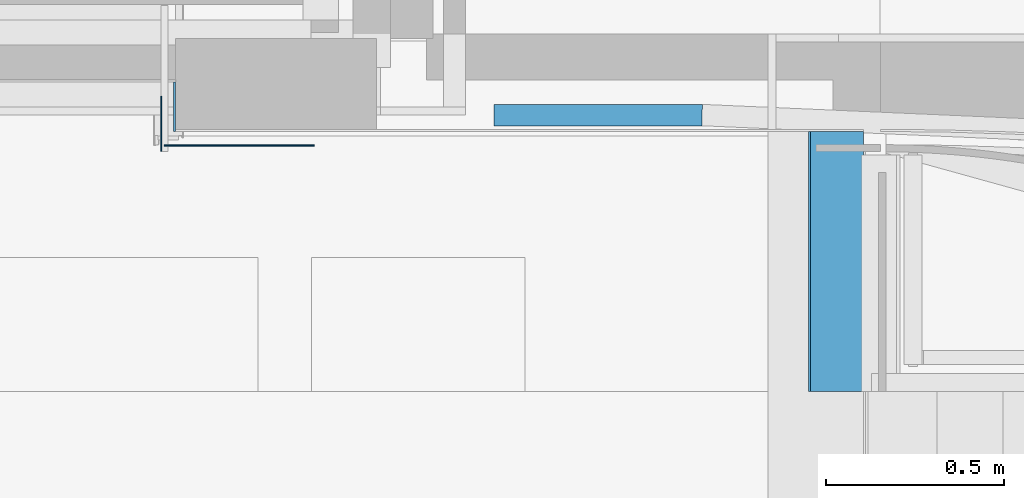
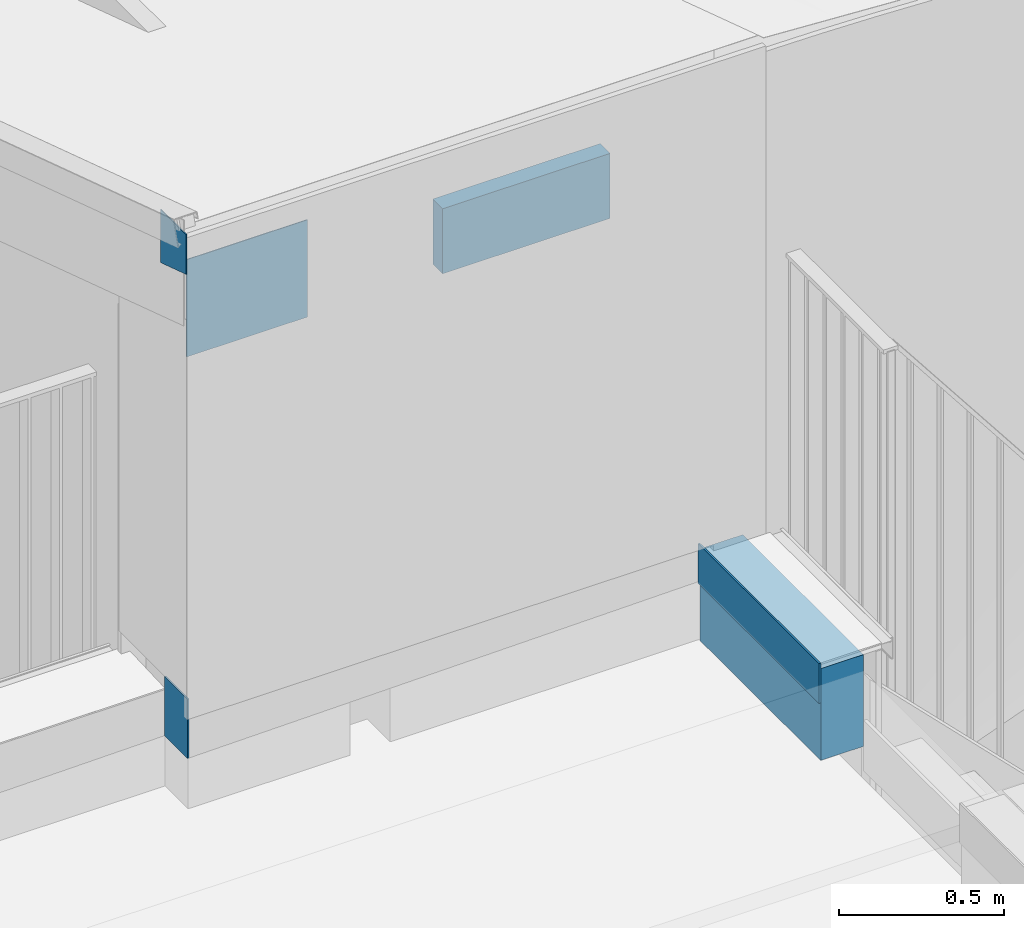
# One storey, part 41 of 66: 6 walls.
"""IFC2X3 building model written with IfcOpenShell, lengths in millimetres."""

from ifc_helpers import new_model, entity, si_unit, converted_unit, derived_unit, direction, frame, frame_2d, origin, place, context, subcontext, project, spatial, polyline, rectangle, outline, extrude, clip, halfspace, material, layer, layer_set, layer_usage, type_object, element, save


model = new_model("IFC2X3")

# Units and contexts
model_context = context("Model", 3, precision=0.01, world=origin(), true_north=direction((6.12303176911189e-17, 1.0)))
body_context = subcontext(model_context, "Body", "Model", "MODEL_VIEW")
ifc_project = project(units=[si_unit("LENGTHUNIT", "METRE", prefix="MILLI"), si_unit("AREAUNIT", "SQUARE_METRE"), si_unit("VOLUMEUNIT", "CUBIC_METRE"), converted_unit("PLANEANGLEUNIT", "DEGREE", entity("IfcRatioMeasure", 0.0174532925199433), si_unit("PLANEANGLEUNIT", "RADIAN"), dimensions=[0, 0, 0, 0, 0, 0, 0]), si_unit("MASSUNIT", "GRAM", prefix="KILO"), derived_unit("MASSDENSITYUNIT", [(si_unit("MASSUNIT", "GRAM", prefix="KILO"), 1), (si_unit("LENGTHUNIT", "METRE"), -3)]), derived_unit("MOMENTOFINERTIAUNIT", [(si_unit("LENGTHUNIT", "METRE"), 4)]), si_unit("TIMEUNIT", "SECOND"), si_unit("FREQUENCYUNIT", "HERTZ"), si_unit("THERMODYNAMICTEMPERATUREUNIT", "DEGREE_CELSIUS"), derived_unit("THERMALTRANSMITTANCEUNIT", [(si_unit("MASSUNIT", "GRAM", prefix="KILO"), 1), (si_unit("THERMODYNAMICTEMPERATUREUNIT", "KELVIN"), -1), (si_unit("TIMEUNIT", "SECOND"), -3)]), derived_unit("VOLUMETRICFLOWRATEUNIT", [(si_unit("LENGTHUNIT", "METRE"), 3), (si_unit("TIMEUNIT", "SECOND"), -1)]), si_unit("ELECTRICCURRENTUNIT", "AMPERE"), si_unit("ELECTRICVOLTAGEUNIT", "VOLT"), si_unit("POWERUNIT", "WATT"), si_unit("FORCEUNIT", "NEWTON", prefix="KILO"), si_unit("ILLUMINANCEUNIT", "LUX"), si_unit("LUMINOUSFLUXUNIT", "LUMEN"), si_unit("LUMINOUSINTENSITYUNIT", "CANDELA"), derived_unit("USERDEFINED", [(si_unit("MASSUNIT", "GRAM", prefix="KILO"), -1), (si_unit("LENGTHUNIT", "METRE"), -2), (si_unit("TIMEUNIT", "SECOND"), 3), (si_unit("LUMINOUSFLUXUNIT", "LUMEN"), 1)]), derived_unit("LINEARVELOCITYUNIT", [(si_unit("LENGTHUNIT", "METRE"), 1), (si_unit("TIMEUNIT", "SECOND"), -1)]), si_unit("PRESSUREUNIT", "PASCAL"), derived_unit("USERDEFINED", [(si_unit("LENGTHUNIT", "METRE"), -2), (si_unit("MASSUNIT", "GRAM", prefix="KILO"), 1), (si_unit("TIMEUNIT", "SECOND"), -2)]), derived_unit("LINEARFORCEUNIT", [(si_unit("MASSUNIT", "GRAM", prefix="KILO"), 1), (si_unit("LENGTHUNIT", "METRE"), 1), (si_unit("TIMEUNIT", "SECOND"), -2), (si_unit("LENGTHUNIT", "METRE"), -1)]), derived_unit("PLANARFORCEUNIT", [(si_unit("MASSUNIT", "GRAM", prefix="KILO"), 1), (si_unit("LENGTHUNIT", "METRE"), 1), (si_unit("TIMEUNIT", "SECOND"), -2), (si_unit("LENGTHUNIT", "METRE"), -2)])], contexts=[model_context])

# Site, building, storey
site_placement = place(None, origin())
site = spatial("IfcSite", under=ifc_project, at=site_placement, Name="Default", CompositionType="ELEMENT")
building_placement = place(site_placement, origin())
building = spatial("IfcBuilding", under=site, at=building_placement, Name="-", CompositionType="ELEMENT")
storey_placement = place(building_placement, frame((0.0, 0.0, 3070.0)))
storey = spatial("IfcBuildingStorey", under=building, at=storey_placement, Name="01 eerste verdieping", CompositionType="ELEMENT", Elevation=3070.00000000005)

# Walls
ifc_material_1 = material(Name="h7_zink zwart")
ifc_layer_1 = layer(ifc_material_1, 3.0)
ifc_layer_set_1 = layer_set([ifc_layer_1], Name="Basic Wall:NLRS_42_WA_beplating_zijkant hellend dak")
ifc_layer_usage_1 = layer_usage(ifc_layer_set_1, "AXIS2", "NEGATIVE", 1.5)
wall_type_1 = type_object("IfcWallType", Name="Basic Wall:NLRS_42_WA_beplating_zijkant hellend dak", PredefinedType="STANDARD", material=ifc_layer_set_1)
wall_1_placement = place(storey_placement, frame((48634.6203901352, 28771.9953625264, 3096.81622748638)))
element("IfcWallStandardCase", 1, at=wall_1_placement, inside=storey, type_object=wall_type_1, material=ifc_layer_usage_1, Name="Basic Wall:NLRS_42_WA_beplating_zijkant hellend dak", ObjectType="Basic Wall:NLRS_42_WA_beplating_zijkant hellend dak", context=body_context, shape_type="SweptSolid", body=[
    extrude(rectangle(XDim=421.999999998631, YDim=2.99999999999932, at=frame_2d((210.999999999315, 0.0), x_axis=(-1.0, 0.0))), origin(), (0.0, 0.0, 1.0), 359.155959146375),
])
ifc_layer_usage_2 = layer_usage(ifc_layer_set_1, "AXIS2", "NEGATIVE", 1.5)
wall_2_placement = place(storey_placement, frame((48625.6203901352, 28910.4953625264, 3363.95500598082), z_axis=(0.0, 0.0, 1.0), x_axis=(0.0, -1.0, 0.0)))
element("IfcWallStandardCase", 2, at=wall_2_placement, inside=storey, type_object=wall_type_1, material=ifc_layer_usage_2, Name="Basic Wall:NLRS_42_WA_beplating_zijkant hellend dak", ObjectType="Basic Wall:NLRS_42_WA_beplating_zijkant hellend dak", context=body_context, shape_type="Clipping", body=[
    clip(extrude(rectangle(XDim=154.999999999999, YDim=2.99999999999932, at=frame_2d((77.4999999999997, 0.0), x_axis=(-1.0, 0.0))), origin(), (0.0, 0.0, 1.0), 197.044994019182), halfspace(frame((155.0, -1.49999999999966, 50.3625529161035), z_axis=(0.30901699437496, 0.0, -0.95105651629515), x_axis=(0.0, 1.0, 0.0)), False)),
])
ifc_material_2 = material(Name="NLRS_i4_hout_underlayment")
ifc_layer_2 = layer(ifc_material_2, 9.0)
ifc_material_3 = material(Name="NLRS_m1_isolatie")
ifc_layer_3 = layer(ifc_material_3, 140.0)
ifc_layer_set_2 = layer_set([ifc_layer_2, ifc_layer_3], Name="Basic Wall:NLRS_21_WA_HSB-wand_149 (conform opgaaf constructeur)")
ifc_layer_usage_3 = layer_usage(ifc_layer_set_2, "AXIS2", "NEGATIVE", 74.5)
wall_type_2 = type_object("IfcWallType", Name="Basic Wall:NLRS_21_WA_HSB-wand_149 (conform opgaaf constructeur)", PredefinedType="STANDARD", material=ifc_layer_set_2)
wall_3_placement = place(storey_placement, frame((50524.620390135, 28080.9965964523, 1390.0), z_axis=(0.0, 0.0, 1.0), x_axis=(0.0, 1.0, 0.0)))
element("IfcWallStandardCase", 3, at=wall_3_placement, inside=storey, type_object=wall_type_2, material=ifc_layer_usage_3, Name="Basic Wall:NLRS_21_WA_HSB-wand_149 (conform opgaaf constructeur)", ObjectType="Basic Wall:NLRS_21_WA_HSB-wand_149 (conform opgaaf constructeur)", context=body_context, shape_type="SweptSolid", body=[
    extrude(rectangle(XDim=729.999999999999, YDim=149.000000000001, at=frame_2d((364.999999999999, -2.1103119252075e-12), x_axis=(-1.0, 0.0))), origin(), (0.0, 0.0, 1.0), 339.000000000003),
])
ifc_material_4 = material(Name="n2_bitumen_dak bedekking")
ifc_layer_4 = layer(ifc_material_4, 6.0)
ifc_layer_set_3 = layer_set([ifc_layer_4], Name="Basic Wall:47.11_2 laagse APP dakbedekking")
ifc_layer_usage_4 = layer_usage(ifc_layer_set_3, "AXIS2", "POSITIVE", -3.0)
wall_type_3 = type_object("IfcWallType", Name="Basic Wall:47.11_2 laagse APP dakbedekking", PredefinedType="STANDARD", material=ifc_layer_set_3)
wall_4_placement = place(storey_placement, frame((48663.5626620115, 28811.4953625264, 1580.37802079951), z_axis=(0.0, 0.0, 1.0), x_axis=(0.0, 1.0, 0.0)))
element("IfcWallStandardCase", 4, at=wall_4_placement, inside=storey, type_object=wall_type_3, material=ifc_layer_usage_4, Name="Basic Wall:47.11_2 laagse APP dakbedekking", ObjectType="Basic Wall:47.11_2 laagse APP dakbedekking", context=body_context, shape_type="SweptSolid", body=[
    extrude(rectangle(XDim=139.211419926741, YDim=5.99999999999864, at=frame_2d((69.6057099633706, -5.41344746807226e-13), x_axis=(-1.0, 0.0))), origin(), (0.0, 0.0, 1.0), 219.621979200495),
])
ifc_layer_usage_5 = layer_usage(ifc_layer_set_3, "AXIS2", "NEGATIVE", 3.0)
wall_5_placement = place(storey_placement, frame((50447.1203901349, 28080.9965964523, 1602.3452129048), z_axis=(0.0, 0.0, 1.0), x_axis=(0.0, 1.0, 0.0)))
element("IfcWallStandardCase", 5, at=wall_5_placement, inside=storey, type_object=wall_type_3, material=ifc_layer_usage_5, Name="Basic Wall:47.11_2 laagse APP dakbedekking", ObjectType="Basic Wall:47.11_2 laagse APP dakbedekking", context=body_context, shape_type="SweptSolid", body=[
    extrude(rectangle(XDim=730.498766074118, YDim=5.99999999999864, at=frame_2d((365.249383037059, -1.0609291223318e-12), x_axis=(-1.0, 0.0))), origin(), (0.0, 0.0, 1.0), 147.697998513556),
])
ifc_material_5 = material(Name="NLRS_n7_isolatie PIR_gen")
ifc_layer_5 = layer(ifc_material_5, 60.0)
ifc_layer_set_4 = layer_set([ifc_layer_5], Name="Basic Wall:NLRS_22_WA_LB_isolatie PIR 60mm")
ifc_layer_usage_6 = layer_usage(ifc_layer_set_4, "AXIS2", "NEGATIVE", 30.0)
wall_type_4 = type_object("IfcWallType", Name="Basic Wall:NLRS_22_WA_LB_isolatie PIR 60mm", PredefinedType="STANDARD", material=ifc_layer_set_4)
wall_6_placement = place(storey_placement, frame((49561.3015410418, 28857.4953625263, 3045.0)))
element("IfcWallStandardCase", 6, at=wall_6_placement, inside=storey, type_object=wall_type_4, material=ifc_layer_usage_6, Name="Basic Wall:NLRS_22_WA_LB_isolatie PIR 60mm", ObjectType="Basic Wall:NLRS_22_WA_LB_isolatie PIR 60mm", context=body_context, shape_type="SweptSolid", body=[
    extrude(outline(polyline([(583.914712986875, -30.0), (585.230255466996, 30.0), (0.0, 30.0), (0.0, -30.0), (583.914712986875, -30.0)])), origin(), (0.0, 0.0, 1.0), 240.000000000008),
])

save(model, "model.ifc")
